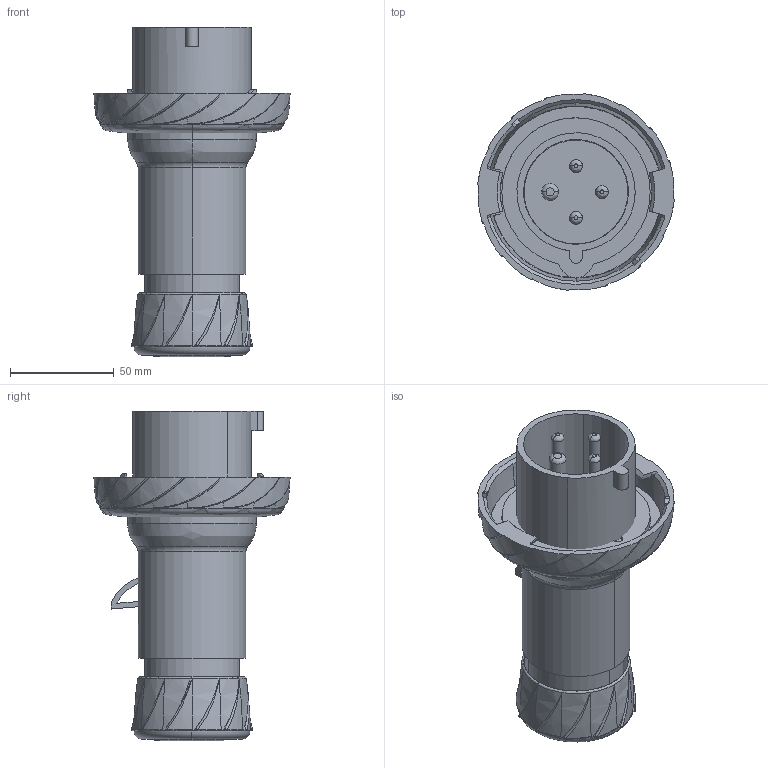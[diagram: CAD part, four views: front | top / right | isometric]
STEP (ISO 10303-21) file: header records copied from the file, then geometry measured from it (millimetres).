
FILE_DESCRIPTION((''),'2;1');
FILE_NAME('PKE32M7C4_3D-SIMPLIFIED_ASM','2022-12-22T13:37:46',('gines.fernandez'),(''),'CREO PARAMETRIC BY PTC INC, 2018260','CREO PARAMETRIC BY PTC INC, 2018260','');
FILE_SCHEMA(('CONFIG_CONTROL_DESIGN'));
Length unit declared in the file: inch
Products named in the file (13): PRT_01; PRT_02; PRT_03; PRT_04; PRT_05; PRT_06; PRT_08; PRT_09; PRT_10; PRT_11; PRT_07; ASM_01_ASM; PKE32M7C4_3D-SIMPLIFIED_ASM
Assembly tree (12 placements, depth 3):
  PKE32M7C4_3D-SIMPLIFIED_ASM
    PRT_01
    PRT_02
    PRT_03
    PRT_04
    PRT_05
    PRT_06
    ASM_01_ASM
      PRT_08
      PRT_09
      PRT_10
      PRT_11
      PRT_07
Bounding box: 94.66 x 94.66 x 158.74 mm (x, y, z)
Volume: 198742.2 mm3; surface area: 113887.2 mm2
Topology: 11 solids, 11 shells, 407 faces, 1108 edges, 737 vertices
Faces by surface type: cylinder 141, bspline 106, plane 83, torus 48, cone 23, sphere 4, extrusion 2
Entity records: 21575 total; most frequent: CARTESIAN_POINT 11611, ORIENTED_EDGE 2208, DIRECTION 1882, EDGE_CURVE 1104, AXIS2_PLACEMENT_3D 814, VERTEX_POINT 737, CIRCLE 485, EDGE_LOOP 439
